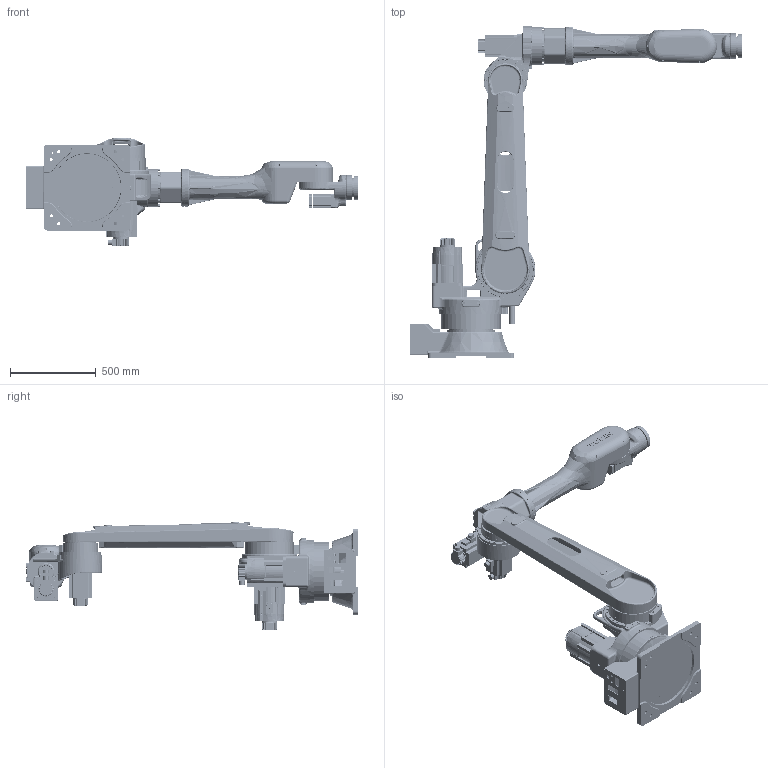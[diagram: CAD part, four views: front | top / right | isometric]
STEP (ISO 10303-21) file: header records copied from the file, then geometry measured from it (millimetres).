
FILE_DESCRIPTION (( 'STEP AP203' ), '1' );
FILE_NAME ('TKB5800.STEP', '2021-09-24T08:59:09', ( '1025578582@qq.com' ), ( '' ), 'SwSTEP 2.0', 'SolidWorks 2018', '' );
FILE_SCHEMA (( 'CONFIG_CONTROL_DESIGN' ));
Length unit declared in the file: millimetre
Products named in the file (8): TKB5800ASS1; TKB5800ASS7; TKB5800ASS2; TKB5800ASS5; TKB5800ASS3; TKB5800; TKB5600ASS6; TKB5800ASS4
Assembly tree (7 placements, depth 2):
  TKB5800
    TKB5800ASS1
    TKB5800ASS2
    TKB5800ASS3
    TKB5800ASS4
    TKB5800ASS5
    TKB5600ASS6
    TKB5800ASS7
Bounding box: 1930 x 1931.5 x 626 mm (x, y, z)
Volume: 42389871.2 mm3; surface area: 7976976.9 mm2
Topology: 28 solids, 173 shells, 10599 faces, 26549 edges, 16375 vertices
Faces by surface type: cylinder 4287, plane 2762, bspline 1493, cone 1049, torus 812, sphere 196
Entity records: 421510 total; most frequent: CARTESIAN_POINT 186679, ORIENTED_EDGE 51218, DIRECTION 44408, EDGE_CURVE 25778, AXIS2_PLACEMENT_3D 17405, VERTEX_POINT 16207, EDGE_LOOP 11758, ADVANCED_FACE 10563
